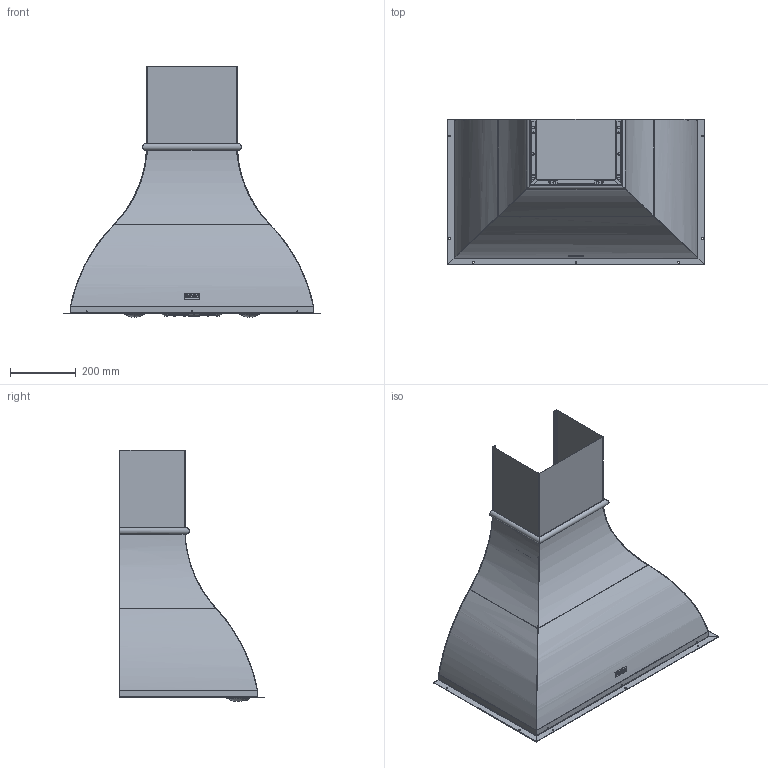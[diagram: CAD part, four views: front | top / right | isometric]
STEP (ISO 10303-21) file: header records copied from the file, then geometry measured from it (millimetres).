
FILE_DESCRIPTION(/* description */ (''),/* implementation_level */ '2;1');
FILE_NAME(/* name */ '3D001_Hoods_Country_FCS-90-NF',/* time_stamp */ '2024-02-13T12:24:14+01:00',/* author */ (''),/* organization */ (''),/* preprocessor_version */ 'ST-DEVELOPER v19.2',/* originating_system */ 'Rhino 8.3',/* authorisation */ '');
FILE_SCHEMA (('CONFIG_CONTROL_DESIGN'));
Length unit declared in the file: millimetre
Products named in the file (21): Document; FIA_5045; A33_713_ASM; A33_710_SKEL; A33_017; 12_0936; A27_708_ASM17; A27_02334; 241_0177; 241_0188; GEMMA_D10910; SD7_016_01; A04_01311; A33_713_SEMPL_ASM; A33_016; A33_015; A33_014; Blocco 15; A33_013; Blocco 14; A33_012
Bounding box: 782.8 x 441.2 x 762.5 mm (x, y, z)
Volume: 255364423.9 mm3; surface area: 6960462.1 mm2
Topology: 22 solids, 50 shells, 3649 faces, 9229 edges, 5618 vertices
Faces by surface type: plane 1921, cylinder 1108, bspline 620
Entity records: 155005 total; most frequent: CARTESIAN_POINT 84886, ORIENTED_EDGE 16540, EDGE_CURVE 8420, DIRECTION 8147, B_SPLINE_CURVE_WITH_KNOTS 5772, AXIS2_PLACEMENT_3D 5438, VERTEX_POINT 5122, EDGE_LOOP 3665
